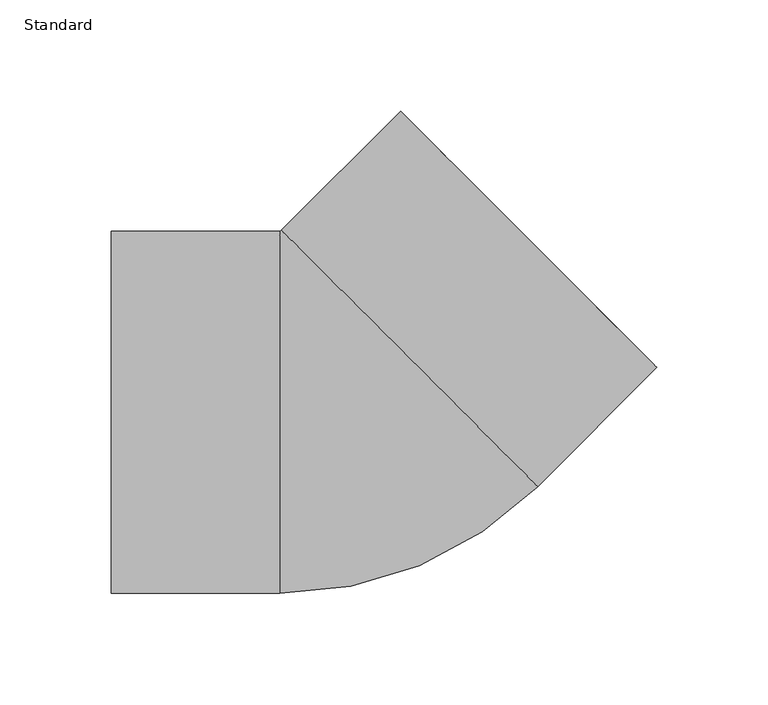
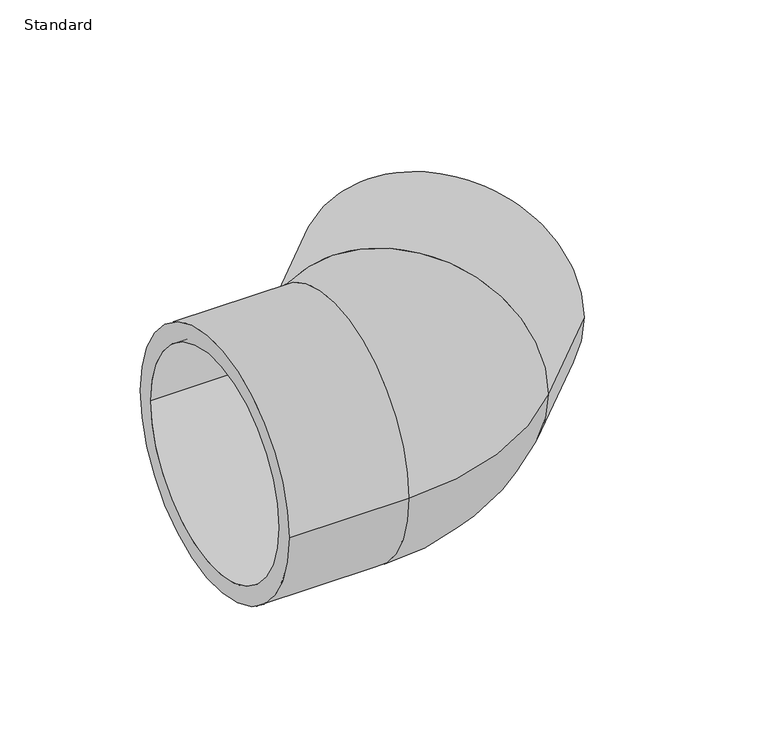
"""IFC4 building model written with IfcOpenShell, lengths in millimetres: pipe fitting geometry, Durapipe_PipeFitting_PVC_Elbow45deg : Standard."""

from ifc_helpers import new_model, si_unit, point, frame, origin, place, context, project, spatial, polyline, circle_curve, ellipse_curve, trimmed, source, transform, mapped, element, save
from ifc_brep_helpers import plane_surface, cylinder_surface, revolved_surface, advanced_brep


def standard_8de06d08(model_context):
    return source(origin(), model_context, "Body", "AdvancedBrep", [
        advanced_brep(
        [(-110.0, -81.5, 0.0), (-110.0, 81.5, 0.0), (-110.0, -70.0, 0.0), (-110.0, 70.0, 0.0), (-34.2584053, -81.5, 0.0), (-34.2584053, 81.5, 0.0), (81.8535534, -33.4048519, 0.0), (-33.4048519, 81.8535534, 0.0), (135.4109486, 20.1525433, 0.0), (20.1525433, 135.4109486, 0.0), (28.2842712, 127.2792206, 0.0), (127.2792206, 28.2842712, 0.0), (-34.0, 70.0, 0.0), (-34.0, -70.0, 0.0), (-34.0, 0.0, 0.0), (-25.4558441, 73.5391052, 0.0), (24.0416306, 24.0416306, 0.0), (73.5391052, -25.4558441, 0.0)],
        [
            (0, 1, circle_curve(frame((-110.0, 0.0, 0.0), z_axis=(-1.0, 0.0, 0.0), x_axis=(0.0, 1.0, 0.0)), 81.5)),
            (1, 0, circle_curve(frame((-110.0, 0.0, 0.0), z_axis=(-1.0, 0.0, 0.0), x_axis=(0.0, 1.0, 0.0)), 81.5)),
            (2, 3, circle_curve(frame((-110.0, 0.0, 0.0), z_axis=(1.0, 0.0, 0.0), x_axis=(0.0, -1.0, 0.0)), 70.0)),
            (3, 2, circle_curve(frame((-110.0, 0.0, 0.0), z_axis=(1.0, 0.0, 0.0), x_axis=(0.0, -1.0, 0.0)), 70.0)),
            (0, 4),
            (4, 5, circle_curve(frame((-34.2584053, 0.0, 0.0), z_axis=(-1.0, 0.0, 0.0), x_axis=(0.0, 1.0, 0.0)), 81.5)),
            (5, 1),
            (5, 4, circle_curve(frame((-34.2584053, 0.0, 0.0), z_axis=(-1.0, 0.0, 0.0), x_axis=(0.0, 1.0, 0.0)), 81.5)),
            (4, 6, circle_curve(frame((-34.2584053, 82.7071068, 0.0), z_axis=(0.0, 0.0, 1.0), x_axis=(0.0, -1.0, 0.0)), 164.2071068)),
            (6, 7, circle_curve(frame((24.2243507, 24.2243507, 0.0), z_axis=(-0.7071067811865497, -0.7071067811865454, 0.0), x_axis=(-0.7071067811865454, 0.7071067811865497, 0.0)), 81.5)),
            (7, 5, circle_curve(frame((-34.2584053, 82.7071068, 0.0), z_axis=(0.0, 0.0, -1.0), x_axis=(0.0, -1.0, 0.0)), 1.2071068)),
            (7, 6, circle_curve(frame((24.2243507, 24.2243507, 0.0), z_axis=(-0.7071067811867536, -0.7071067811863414, 0.0), x_axis=(-0.7071067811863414, 0.7071067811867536, 0.0)), 81.5)),
            (8, 9, circle_curve(frame((77.7817459, 77.7817459, 0.0), z_axis=(0.7071067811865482, 0.7071067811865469, 0.0), x_axis=(-0.7071067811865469, 0.7071067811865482, 0.0)), 81.5)),
            (9, 8, circle_curve(frame((77.7817459, 77.7817459, 0.0), z_axis=(0.7071067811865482, 0.7071067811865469, 0.0), x_axis=(-0.7071067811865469, 0.7071067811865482, 0.0)), 81.5)),
            (10, 11, circle_curve(frame((77.7817459, 77.7817459, 0.0), z_axis=(-0.7071067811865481, -0.707106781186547, 0.0), x_axis=(0.7071067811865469, -0.707106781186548, 0.0)), 70.0)),
            (11, 10, circle_curve(frame((77.7817459, 77.7817459, 0.0), z_axis=(-0.7071067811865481, -0.707106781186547, 0.0), x_axis=(0.7071067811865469, -0.707106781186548, 0.0)), 70.0)),
            (6, 8),
            (9, 7),
            (12, 3),
            (2, 13),
            (13, 12, circle_curve(frame((-34.0, 0.0, 0.0), z_axis=(1.0, 0.0, 0.0), x_axis=(0.0, -1.0, 0.0)), 70.0)),
            (12, 13, circle_curve(frame((-34.0, 0.0, 0.0), z_axis=(1.0, 0.0, 0.0), x_axis=(0.0, -1.0, 0.0)), 70.0)),
            (13, 14),
            (14, 12),
            (15, 16),
            (16, 17),
            (17, 15, circle_curve(frame((24.0416306, 24.0416306, 0.0), z_axis=(0.7071067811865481, 0.707106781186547, 0.0), x_axis=(0.7071067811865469, -0.707106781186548, 0.0)), 70.0)),
            (15, 17, circle_curve(frame((24.0416306, 24.0416306, 0.0), z_axis=(0.7071067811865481, 0.707106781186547, 0.0), x_axis=(0.7071067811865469, -0.707106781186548, 0.0)), 70.0)),
            (17, 11),
            (10, 15),
        ],
        [
            plane_surface(frame((-110.0, 0.0, 0.0), z_axis=(-1.0, 0.0, 0.0), x_axis=(0.0, 0.0, 1.0))),
            cylinder_surface(frame((-110.0, 0.0, 0.0), z_axis=(-1.0, 0.0, 0.0), x_axis=(0.0, 1.0, 0.0)), 81.5),
            revolved_surface(trimmed(ellipse_curve(frame((-34.2584053, 0.0, 0.0), z_axis=(-1.0, 0.0, 0.0), x_axis=(0.0, 1.0, 0.0)), 81.5, 81.5), [point((-34.2584053, -81.5, 0.0))], [point((-34.2584053, 81.5, 0.0))], True, "CARTESIAN"), (-34.2584053, 82.7071068, 0.0), (0.0, 0.0, 1.0)),
            revolved_surface(trimmed(ellipse_curve(frame((-34.2584053, 0.0, 0.0), z_axis=(-1.0, 0.0, 0.0), x_axis=(0.0, 1.0, 0.0)), 81.5, 81.5), [point((-34.2584053, 81.5, 0.0))], [point((-34.2584053, -81.5, 0.0))], True, "CARTESIAN"), (-34.2584053, 82.7071068, 0.0), (0.0, 0.0, 1.0)),
            plane_surface(frame((77.7817459, 77.7817459, 0.0), z_axis=(0.7071067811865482, 0.7071067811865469, 0.0), x_axis=(0.0, 0.0, 1.0))),
            cylinder_surface(frame((24.2243507, 24.2243507, 0.0), z_axis=(-0.7071067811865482, -0.7071067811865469, 0.0), x_axis=(-0.7071067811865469, 0.7071067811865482, 0.0)), 81.5),
            revolved_surface(polyline([(-34.0, -70.0, 0.0), (-110.0, -70.0, 0.0)]), (2000.0, 0.0, 0.0), (1.0, 0.0, 0.0)),
            plane_surface(frame((-34.0, 0.0, 0.0), z_axis=(-1.0, 0.0, 0.0), x_axis=(0.0, -1.0, 0.0))),
            plane_surface(frame((24.0416306, 24.0416306, 0.0), z_axis=(0.7071067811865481, 0.707106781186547, 0.0), x_axis=(0.707106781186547, -0.7071067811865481, 0.0))),
            revolved_surface(polyline([(127.27922058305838, 28.284271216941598, 0.0), (73.53910523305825, -25.455844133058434, 0.0)]), (0.0, 0.0, 0.0), (0.707106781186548, 0.7071067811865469, 0.0)),
        ],
        [
            (0, [[1, 2], [3, 4]]),
            (1, [[-1, 5, 6, 7]]),
            (1, [[-2, -7, 8, -5]]),
            (2, [[-6, 9, 10, 11]]),
            (3, [[-8, -11, 12, -9]]),
            (4, [[13, 14], [15, 16]]),
            (5, [[-10, 17, -14, 18]]),
            (5, [[-12, -18, -13, -17]]),
            (6, [[19, -3, 20, 21]]),
            (6, [[-19, 22, -20, -4]]),
            (7, [[-21, 23, 24]]),
            (7, [[-22, -24, -23]]),
            (8, [[25, 26, 27]]),
            (8, [[-25, 28, -26]]),
            (9, [[-27, 29, -15, 30]]),
            (9, [[-28, -30, -16, -29]]),
        ],
    ),
    ])


if __name__ == "__main__":
    model = new_model("IFC4")
    model_context = context("Model", 3, world=origin())
    ifc_project = project(units=[si_unit("LENGTHUNIT", "METRE", prefix="MILLI")], contexts=[model_context])
    site = spatial("IfcSite", under=ifc_project)
    building = spatial("IfcBuilding", under=site)
    placement = place(None, origin())
    standard_shape = standard_8de06d08(model_context)
    element("IfcPipeFitting", 1, ObjectType="Durapipe_PipeFitting_PVC_Elbow45deg : Standard", at=placement, inside=building, context=model_context, shape_type="MappedRepresentation", body=[
        mapped(standard_shape, transform((0.0, 0.0, 0.0), x_axis=(1.0, 0.0, 0.0), y_axis=(0.0, 1.0, 0.0), z_axis=(0.0, 0.0, 1.0))),
    ])
    save(model, "model.ifc")
